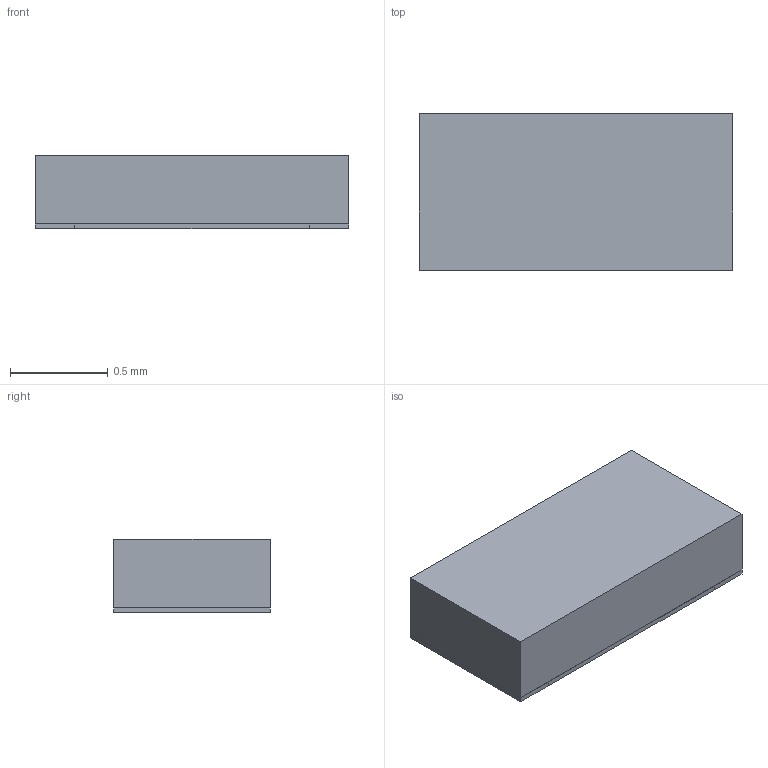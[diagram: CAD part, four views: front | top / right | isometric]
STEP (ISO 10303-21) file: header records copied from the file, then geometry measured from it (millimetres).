
FILE_DESCRIPTION(('STEP AP203'), '1');
FILE_NAME('栖闉罻', '', ('UNSPECIFIED'), ('UNSPECIFIED'), 'ASCON STEP Converter 1.6', 'ASCON Math Kernel', '');
FILE_SCHEMA(('CONFIG_CONTROL_DESIGN'));
Length unit declared in the file: millimetre
Assembly tree (1 placements, depth 2):
  (unnamed)
    (unnamed)
Bounding box: 1.6 x 0.8 x 0.38 mm (x, y, z)
Volume: 0.5 mm3; surface area: 7.2 mm2
Topology: 4 solids, 5 shells, 43 faces, 99 edges, 66 vertices
Faces by surface type: plane 39, cylinder 4
Entity records: 1659 total; most frequent: CARTESIAN_POINT 210, ORIENTED_EDGE 198, DIRECTION 197, EDGE_CURVE 99, LINE 91, VECTOR 91, VERTEX_POINT 66, AXIS2_PLACEMENT_3D 53
